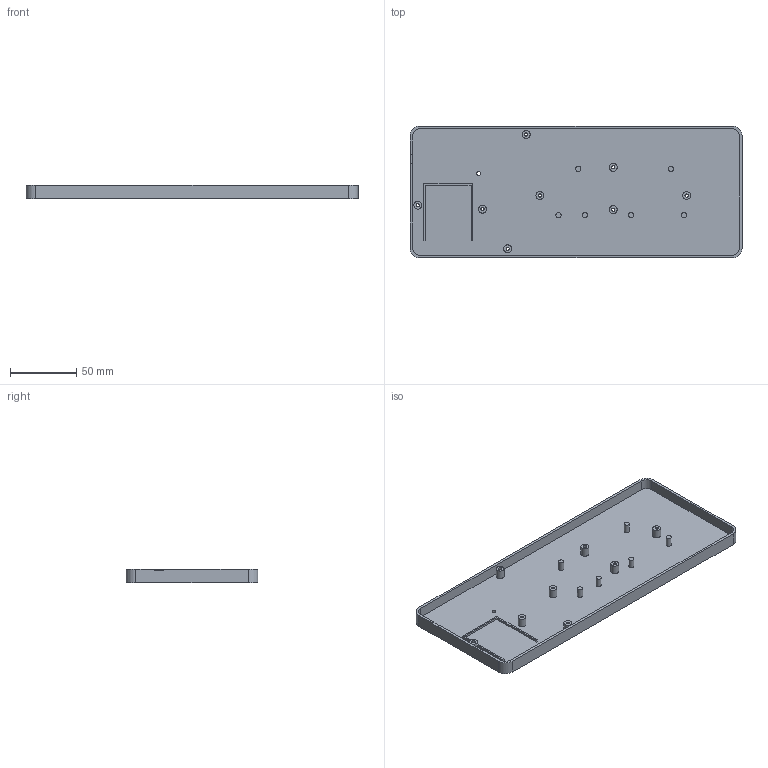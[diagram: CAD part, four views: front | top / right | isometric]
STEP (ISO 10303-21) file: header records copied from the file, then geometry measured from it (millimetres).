
FILE_DESCRIPTION(('Open CASCADE Model'),'2;1');
FILE_NAME('Open CASCADE Shape Model','2026-11-15T18:53:35',('Author'),( 'Open CASCADE'),'Open CASCADE STEP processor 7.9','Open CASCADE 7.9' ,'Unknown');
FILE_SCHEMA(('AUTOMOTIVE_DESIGN { 1 0 10303 214 1 1 1 1 }'));
Length unit declared in the file: millimetre
Products named in the file (1): Open CASCADE STEP translator 7.9 1
Bounding box: 251.3 x 99.8 x 10.1 mm (x, y, z)
Volume: 62899.3 mm3; surface area: 65014.4 mm2
Topology: 1 solids, 1 shells, 84 faces, 177 edges, 118 vertices
Faces by surface type: plane 45, cylinder 39
Full cylindrical faces by diameter (mm): 2.4 x8, 3 x1, 4 x6, 4.4 x8, 6 x8
Entity records: 4687 total; most frequent: CARTESIAN_POINT 934, DIRECTION 724, ORIENTED_EDGE 354, PCURVE 354, DEFINITIONAL_REPRESENTATION 354, LINE 349, VECTOR 349, EDGE_CURVE 177
